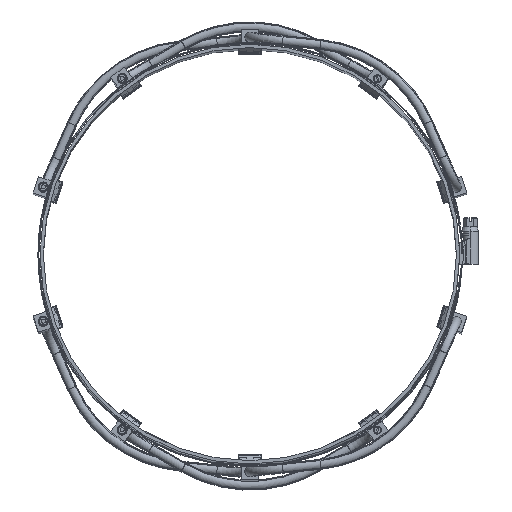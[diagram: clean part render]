
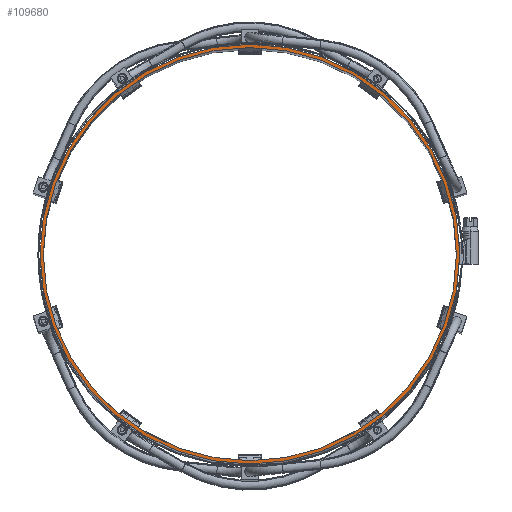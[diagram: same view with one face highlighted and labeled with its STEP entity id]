
A CAD part, top view. The second image highlights one B-rep face of the part: STEP entity #109680.
In plain terms, the highlighted planar face has unit normal (0, 0, 1).
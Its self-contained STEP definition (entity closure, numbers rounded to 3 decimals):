
#22985=CIRCLE('',#107224,125.);
#23075=CIRCLE('',#107316,127.);
#24462=ORIENTED_EDGE('',*,*,#35036,.T.);
#24463=ORIENTED_EDGE('',*,*,#34835,.T.);
#32847=VERTEX_POINT('',#50523);
#33044=VERTEX_POINT('',#56848);
#34835=EDGE_CURVE('',#32847,#32847,#22985,.T.);
#35036=EDGE_CURVE('',#33044,#33044,#23075,.T.);
#37423=EDGE_LOOP('',(#24462));
#37424=EDGE_LOOP('',(#24463));
#38900=FACE_BOUND('',#37423,.T.);
#38901=FACE_BOUND('',#37424,.T.);
#40759=DIRECTION('',(0.,0.,-1.));
#40760=DIRECTION('',(125.,0.,0.));
#41014=DIRECTION('',(0.,0.,1.));
#41015=DIRECTION('',(127.,0.,0.));
#41170=DIRECTION('',(0.,0.,1.));
#41171=DIRECTION('',(0.,-1.,0.));
#50523=CARTESIAN_POINT('',(233.89,53.109,731.623));
#50524=CARTESIAN_POINT('',(108.89,53.109,731.623));
#56848=CARTESIAN_POINT('',(235.89,53.109,731.623));
#56849=CARTESIAN_POINT('',(108.89,53.109,731.623));
#58481=CARTESIAN_POINT('',(108.89,53.109,731.623));
#107224=AXIS2_PLACEMENT_3D('',#50524,#40759,#40760);
#107316=AXIS2_PLACEMENT_3D('',#56849,#41014,#41015);
#107374=AXIS2_PLACEMENT_3D('',#58481,#41170,#41171);
#108938=PLANE('',#107374);
#109680=ADVANCED_FACE('',(#38900,#38901),#108938,.T.);
